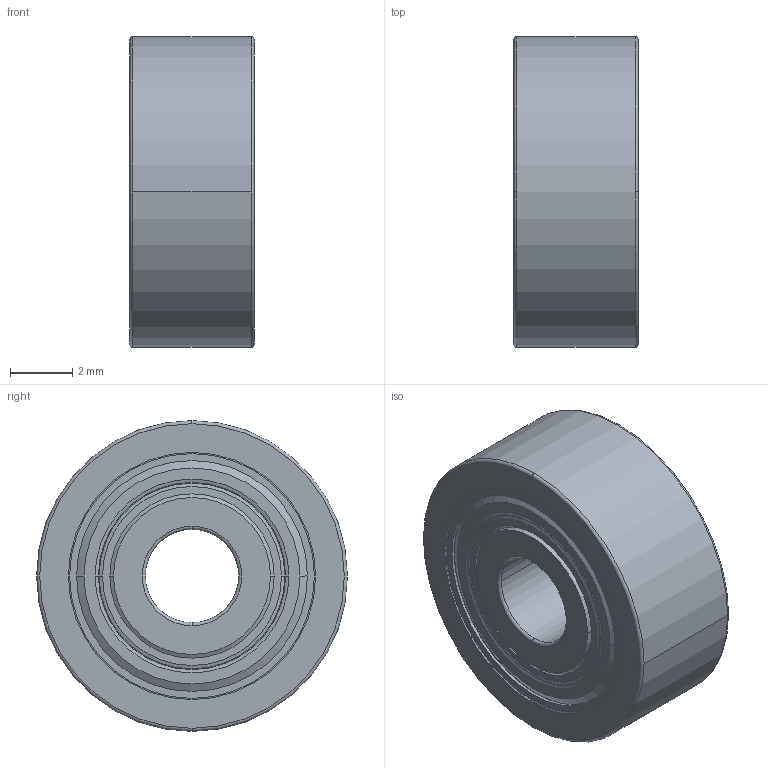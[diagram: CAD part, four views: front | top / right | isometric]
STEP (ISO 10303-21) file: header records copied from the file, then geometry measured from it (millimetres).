
FILE_DESCRIPTION(('FreeCAD Model'),'2;1');
FILE_NAME('Open CASCADE Shape Model','2021-04-30T14:26:44',(''),(''), 'Open CASCADE STEP processor 7.5','FreeCAD','Unknown');
FILE_SCHEMA(('AUTOMOTIVE_DESIGN { 1 0 10303 214 1 1 1 1 }'));
Length unit declared in the file: millimetre
Products named in the file (6): snr_623zz_0_006; snr_623zz_0_1; snr_623zz_0_002; snr_623zz_0_003; snr_623zz_0_004; snr_623zz_0_005
Assembly tree (5 placements, depth 2):
  snr_623zz_0_006
    snr_623zz_0_1
    snr_623zz_0_002
    snr_623zz_0_003
    snr_623zz_0_004
    snr_623zz_0_005
Bounding box: 4 x 10 x 10 mm (x, y, z)
Volume: 254.9 mm3; surface area: 743 mm2
Topology: 5 solids, 5 shells, 118 faces, 264 edges, 172 vertices
Faces by surface type: torus 36, cone 32, plane 26, cylinder 24
Entity records: 7170 total; most frequent: CARTESIAN_POINT 1436, DIRECTION 1190, ORIENTED_EDGE 528, PCURVE 528, DEFINITIONAL_REPRESENTATION 528, LINE 468, VECTOR 468, AXIS2_PLACEMENT_3D 332
